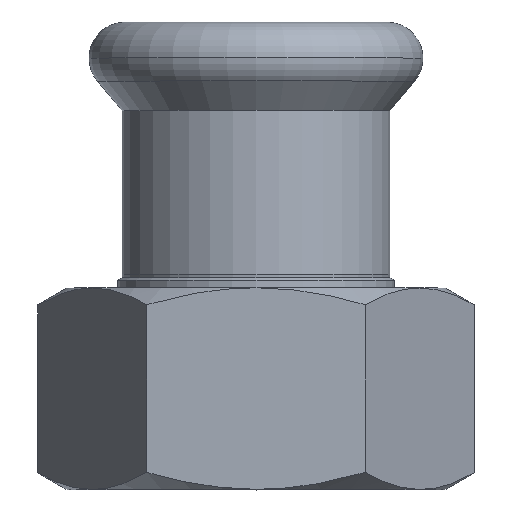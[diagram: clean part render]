
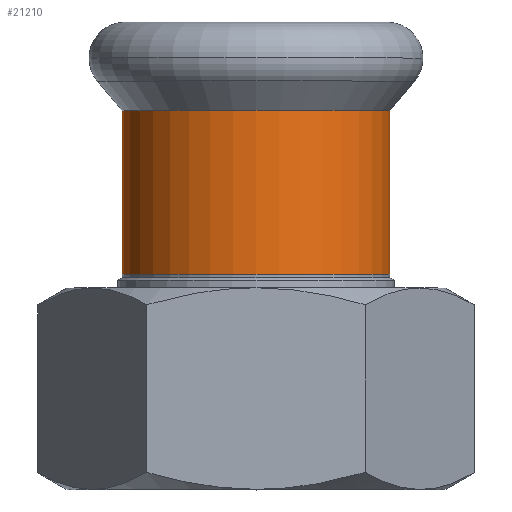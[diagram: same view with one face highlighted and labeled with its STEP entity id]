
A CAD part, top view. The second image highlights one B-rep face of the part: STEP entity #21210.
In plain terms, the highlighted cylindrical face has radius 10.625 mm (diameter 21.25 mm), a partial arc.
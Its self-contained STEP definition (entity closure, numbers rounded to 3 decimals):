
#19110=CARTESIAN_POINT('',(191.623,24.352,
0.));
#19120=VERTEX_POINT('',#19110);
#19300=CARTESIAN_POINT('',(191.623,3.102,
0.));
#19310=VERTEX_POINT('',#19300);
#19340=CARTESIAN_POINT('',(191.623,13.727,
0.));
#19350=DIRECTION('',(-1.,0.,0.));
#19360=DIRECTION('',(0.,-1.,0.));
#19370=AXIS2_PLACEMENT_3D('',#19340,#19350,#19360);
#19380=CIRCLE('',#19370,10.625);
#20890=CARTESIAN_POINT('',(198.389,13.727,
0.));
#20900=DIRECTION('',(1.,0.,0.));
#20910=DIRECTION('',(0.,-1.,0.));
#20920=AXIS2_PLACEMENT_3D('',#20890,#20900,#20910);
#20930=CYLINDRICAL_SURFACE('',#20920,10.625);
#20940=CARTESIAN_POINT('',(198.389,3.102,
0.));
#20950=DIRECTION('',(1.,0.,0.));
#20960=VECTOR('',#20950,1.);
#20970=LINE('',#20940,#20960);
#20980=CARTESIAN_POINT('',(204.625,3.102,
0.));
#20990=VERTEX_POINT('',#20980);
#21000=EDGE_CURVE('',#19310,#20990,#20970,.T.);
#21010=ORIENTED_EDGE('',*,*,#21000,.T.);
#21020=EDGE_CURVE('',#19310,#19120,#19380,.T.);
#21030=ORIENTED_EDGE('',*,*,#21020,.F.);
#21040=CARTESIAN_POINT('',(198.389,24.352,
0.));
#21050=DIRECTION('',(1.,0.,0.));
#21060=VECTOR('',#21050,1.);
#21070=LINE('',#21040,#21060);
#21080=CARTESIAN_POINT('',(204.625,24.352,
0.));
#21090=VERTEX_POINT('',#21080);
#21100=EDGE_CURVE('',#19120,#21090,#21070,.T.);
#21110=ORIENTED_EDGE('',*,*,#21100,.F.);
#21120=CARTESIAN_POINT('',(204.625,13.727,
0.));
#21130=DIRECTION('',(1.,0.,0.));
#21140=DIRECTION('',(0.,-1.,0.));
#21150=AXIS2_PLACEMENT_3D('',#21120,#21130,#21140);
#21160=CIRCLE('',#21150,10.625);
#21170=EDGE_CURVE('',#21090,#20990,#21160,.T.);
#21180=ORIENTED_EDGE('',*,*,#21170,.F.);
#21190=EDGE_LOOP('',(#21180,#21110,#21030,#21010));
#21200=FACE_OUTER_BOUND('',#21190,.T.);
#21210=ADVANCED_FACE('',(#21200),#20930,.T.);
